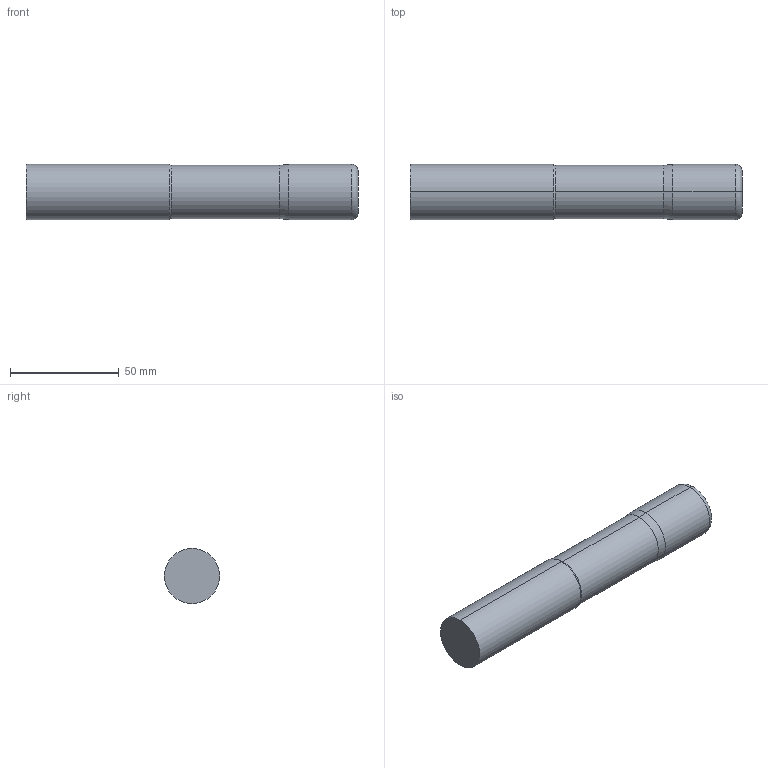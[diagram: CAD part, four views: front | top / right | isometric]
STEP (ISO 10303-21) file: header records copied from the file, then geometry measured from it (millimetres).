
FILE_DESCRIPTION (( 'STEP AP214' ), '1' );
FILE_NAME ('SSIRNL51000-120.STEP', '2025-05-28T13:23:18', ( '' ), ( '' ), 'SwSTEP 2.0', 'SolidWorks 2023', '' );
FILE_SCHEMA (( 'AUTOMOTIVE_DESIGN' ));
Length unit declared in the file: inch
Products named in the file (3): SSIRNL51000-120; SSI5 Imperial LOC ONLY_SSIRNL51000-120; SSI5 Imperial SHANK ONLY_SSIRNL51000-120
Assembly tree (2 placements, depth 2):
  SSIRNL51000-120
    SSI5 Imperial LOC ONLY_SSIRNL51000-120
    SSI5 Imperial SHANK ONLY_SSIRNL51000-120
Bounding box: 152.4 x 25.4 x 25.4 mm (x, y, z)
Volume: 74991.5 mm3; surface area: 13925.3 mm2
Topology: 2 solids, 2 shells, 16 faces, 28 edges, 16 vertices
Faces by surface type: cylinder 6, plane 4, cone 4, torus 2
Entity records: 562 total; most frequent: DIRECTION 88, CARTESIAN_POINT 65, ORIENTED_EDGE 56, AXIS2_PLACEMENT_3D 39, EDGE_CURVE 28, CIRCLE 18, ADVANCED_FACE 16, VERTEX_POINT 16
